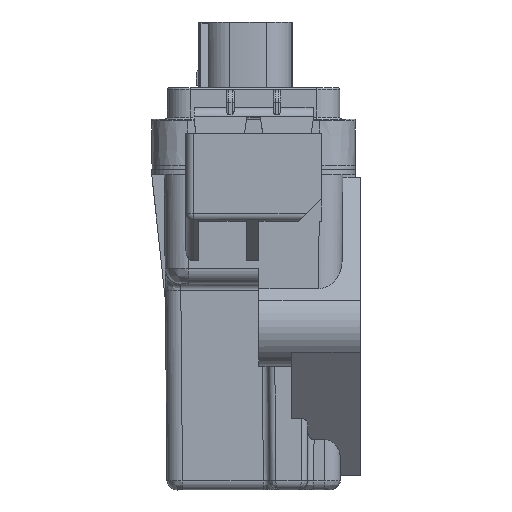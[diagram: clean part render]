
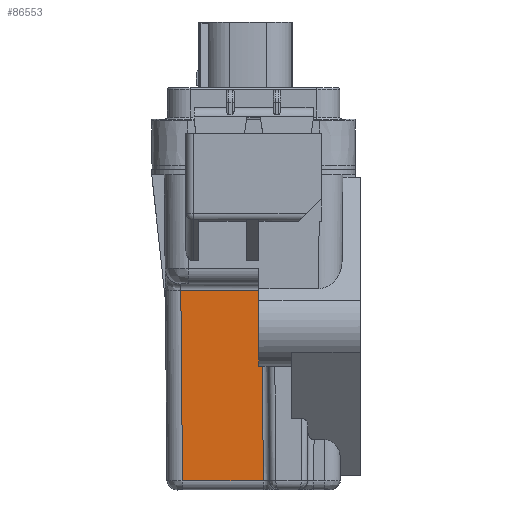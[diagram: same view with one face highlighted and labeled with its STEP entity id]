
A CAD part, left-side view. The second image highlights one B-rep face of the part: STEP entity #86553.
In plain terms, the highlighted planar face has unit normal (-1, 0.009, -0.009).
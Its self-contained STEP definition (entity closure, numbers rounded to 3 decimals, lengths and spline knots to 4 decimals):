
#15883=DIRECTION('',(-0.009,0.,1.));
#15884=VECTOR('',#15883,0.394);
#15885=CARTESIAN_POINT('',(-1.6675,-0.0425,
-1.5036));
#15886=LINE('',#15885,#15884);
#15920=DIRECTION('',(0.008,1.,0.026));
#15921=VECTOR('',#15920,0.0258);
#15922=CARTESIAN_POINT('',(-1.6677,-0.0683,
-1.5042));
#15923=LINE('',#15922,#15921);
#15924=CARTESIAN_POINT('',(-1.6675,-0.0425,
-1.5036));
#15949=DIRECTION('',(-0.009,0.009,1.));
#15950=VECTOR('',#15949,1.5212);
#15951=CARTESIAN_POINT('',(-1.6523,0.5673,
-2.6307));
#15952=LINE('',#15951,#15950);
#15953=DIRECTION('',(-0.009,-1.,0.));
#15954=VECTOR('',#15953,0.6231);
#15955=CARTESIAN_POINT('',(-1.6655,0.5806,
-1.1096));
#15956=LINE('',#15955,#15954);
#15957=DIRECTION('',(0.009,-0.009,-1.));
#15958=VECTOR('',#15957,1.1265);
#15959=CARTESIAN_POINT('',(-1.6677,-0.0683,
-1.5042));
#15960=LINE('',#15959,#15958);
#15961=DIRECTION('',(0.009,1.,0.));
#15962=VECTOR('',#15961,0.6455);
#15963=CARTESIAN_POINT('',(-1.658,-0.0781,
-2.6307));
#15964=LINE('',#15963,#15962);
#53124=VERTEX_POINT('',#15924);
#53125=CARTESIAN_POINT('',(-1.6709,-0.0425,
-1.1096));
#53126=VERTEX_POINT('',#53125);
#53138=CARTESIAN_POINT('',(-1.6677,-0.0683,
-1.5042));
#53139=VERTEX_POINT('',#53138);
#53140=CARTESIAN_POINT('',(-1.6523,0.5673,
-2.6307));
#53141=CARTESIAN_POINT('',(-1.6655,0.5806,
-1.1096));
#53142=VERTEX_POINT('',#53140);
#53143=VERTEX_POINT('',#53141);
#53144=CARTESIAN_POINT('',(-1.658,-0.0781,
-2.6307));
#53145=VERTEX_POINT('',#53144);
#86536=CARTESIAN_POINT('',(-1.6648,0.7105,-1.06));
#86537=DIRECTION('',(1.,-0.009,0.009));
#86538=DIRECTION('',(0.009,0.,-1.));
#86539=AXIS2_PLACEMENT_3D('',#86536,#86537,#86538);
#86540=PLANE('',#86539);
#86542=ORIENTED_EDGE('',*,*,#86541,.T.);
#86544=ORIENTED_EDGE('',*,*,#86543,.T.);
#86545=ORIENTED_EDGE('',*,*,#86499,.F.);
#86546=ORIENTED_EDGE('',*,*,#86527,.F.);
#86548=ORIENTED_EDGE('',*,*,#86547,.T.);
#86550=ORIENTED_EDGE('',*,*,#86549,.T.);
#86551=EDGE_LOOP('',(#86542,#86544,#86545,#86546,#86548,#86550));
#86552=FACE_OUTER_BOUND('',#86551,.F.);
#86553=ADVANCED_FACE('',(#86552),#86540,.F.);
#86499=EDGE_CURVE('',#53124,#53126,#15886,.T.);
#86527=EDGE_CURVE('',#53139,#53124,#15923,.T.);
#86541=EDGE_CURVE('',#53142,#53143,#15952,.T.);
#86543=EDGE_CURVE('',#53143,#53126,#15956,.T.);
#86547=EDGE_CURVE('',#53139,#53145,#15960,.T.);
#86549=EDGE_CURVE('',#53145,#53142,#15964,.T.);
